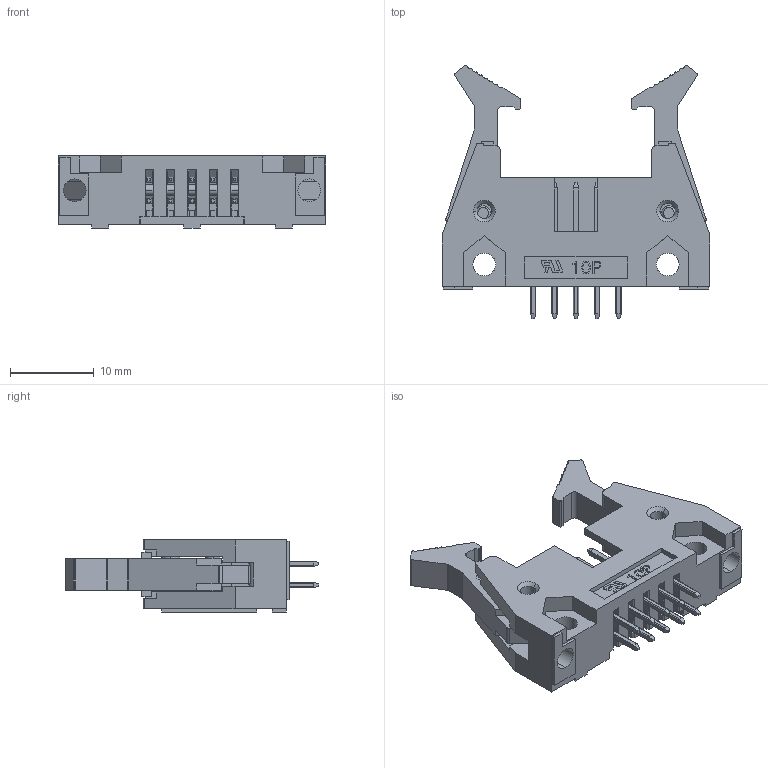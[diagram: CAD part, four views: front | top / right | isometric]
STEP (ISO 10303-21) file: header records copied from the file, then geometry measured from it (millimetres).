
FILE_DESCRIPTION (( 'STEP AP214' ), '1' );
FILE_NAME ('3011-10G00SB1A.STEP', '2020-04-28T12:56:41', ( '' ), ( '' ), 'SwSTEP 2.0', 'SolidWorks 2011', '' );
FILE_SCHEMA (( 'AUTOMOTIVE_DESIGN' ));
Length unit declared in the file: millimetre
Products named in the file (1): 3011-10G00SB1A
Bounding box: 31.88 x 30.14 x 8.6 mm (x, y, z)
Volume: 2506.3 mm3; surface area: 3700.7 mm2
Topology: 1 solids, 1 shells, 1019 faces, 2761 edges, 1782 vertices
Faces by surface type: plane 853, cylinder 138, cone 20, torus 8
Entity records: 42728 total; most frequent: CARTESIAN_POINT 5969, ORIENTED_EDGE 5522, DIRECTION 4975, EDGE_CURVE 2761, VECTOR 2335, LINE 2335, VERTEX_POINT 1782, AXIS2_PLACEMENT_3D 1320
